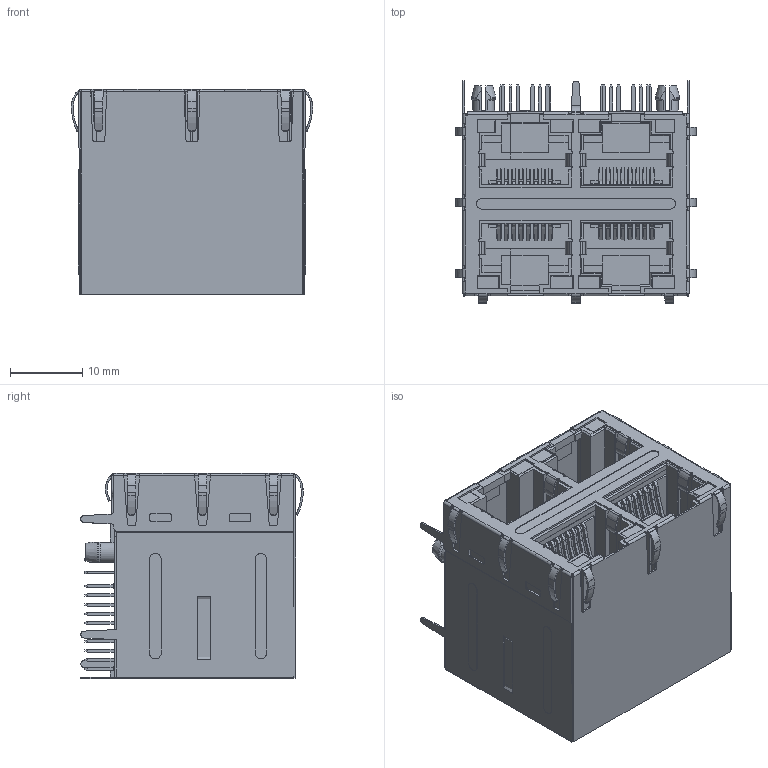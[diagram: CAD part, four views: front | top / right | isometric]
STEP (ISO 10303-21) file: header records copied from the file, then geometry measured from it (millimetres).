
FILE_DESCRIPTION (( 'STEP AP203' ), '1' );
FILE_NAME ('LD 2x2 邧諶傖こ.STEP', '2019-05-05T07:37:31', ( 'admin' ), ( '' ), 'SwSTEP 2.0', 'SolidWorks 2012', '' );
FILE_SCHEMA (( 'CONFIG_CONTROL_DESIGN' ));
Products named in the file (15): LD 2x2 邧諶傖こ; ヶ褲_1; F SHILED_1; led_1_1; P傷圉傖こ1_1_1; 圉傖こ_1_1; RJ囀脣郋_1_1; RJ PIN_1_1; CK01_1_1; CX02_1_1; 2X2HOUSING_1_1; PIN3_1_1; PIN2_1_1; PIN1_1_1; B59YJ_1_1
Assembly tree (78 placements, depth 5):
  LD 2x2 邧諶傖こ
    B59YJ_1_1
    PIN1_1_1  x10
    PIN2_1_1  x10
    PIN3_1_1  x8
    P傷圉傖こ1_1_1
      B59YJ_1_1
      PIN1_1_1  x10
      PIN2_1_1  x10
      PIN3_1_1  x8
      圉傖こ_1_1
        2X2HOUSING_1_1
        RJ囀脣郋_1_1  x2
          CX02_1_1
          CK01_1_1
          RJ PIN_1_1
    led_1_1  x8
    F SHILED_1
    ヶ褲_1
Bounding box: 33.37 x 30.75 x 28.37 mm (x, y, z)
Volume: 3730.4 mm3; surface area: 31206.7 mm2
Topology: 107 solids, 109 shells, 4925 faces, 13546 edges, 8754 vertices
Faces by surface type: plane 4110, cylinder 677, bspline 124, cone 14
Entity records: 89721 total; most frequent: CARTESIAN_POINT 18312, ORIENTED_EDGE 14918, DIRECTION 12937, EDGE_CURVE 7463, LINE 6557, VECTOR 6557, VERTEX_POINT 4805, AXIS2_PLACEMENT_3D 3190
